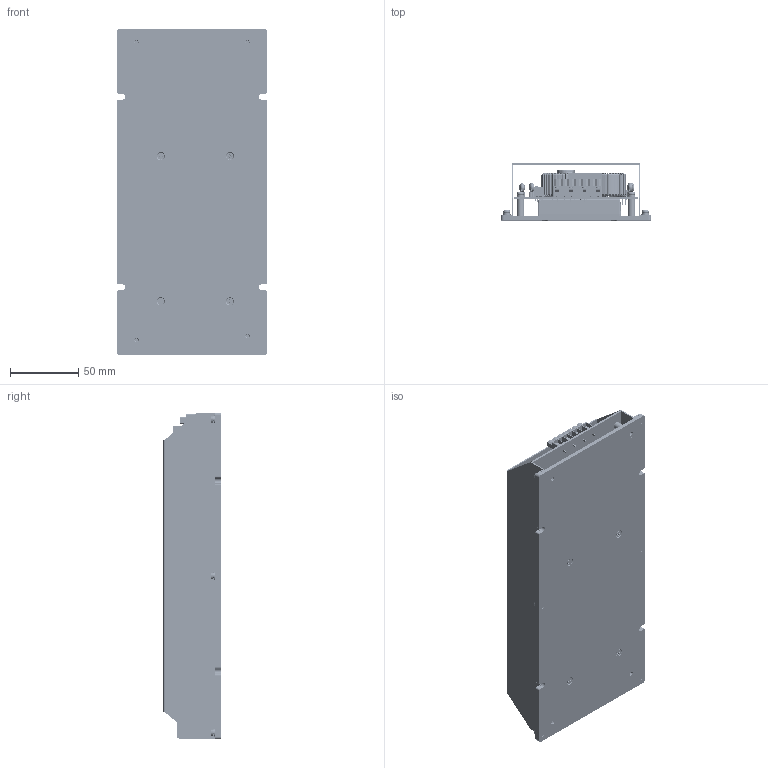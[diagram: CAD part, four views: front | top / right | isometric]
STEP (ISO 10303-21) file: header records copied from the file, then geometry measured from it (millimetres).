
FILE_DESCRIPTION (( 'STEP AP203' ), '1' );
FILE_NAME ('CFB750-300S CMFD 2024.11.14.STEP', '2024-11-14T05:45:45', ( '' ), ( '' ), 'SwSTEP 2.0', 'SolidWorks 2020', '' );
FILE_SCHEMA (( 'CONFIG_CONTROL_DESIGN' ));
Products named in the file (1): CFB750-300S CMFD 2024.11.14
Bounding box: 110 x 42 x 240 mm (x, y, z)
Volume: 222523.2 mm3; surface area: 235968.7 mm2
Topology: 15 solids, 19 shells, 4851 faces, 13580 edges, 8772 vertices
Faces by surface type: plane 2823, cylinder 991, bspline 441, torus 431, cone 165
Full cylindrical faces by diameter (mm): 0.6 x18, 0.8 x4, 0.936 x224, 1 x42, 1.2 x6, 1.4 x8, 1.5 x2, 2 x16, 2.4 x8, 2.5 x30, 2.8 x14, 2.846 x14, 2.9 x8, 3 x7, 3.2 x21, 3.25 x1, 3.5 x8, 3.8 x4, 3.9 x7, 4.5 x4, 5 x8, 5.06 x4, 5.2 x5, 5.246 x14, 5.3 x8, 5.8 x18, 6 x3, 6.3 x6, 10.2 x1, 12 x1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
Entity records: 209734 total; most frequent: CARTESIAN_POINT 99147, ORIENTED_EDGE 23898, DIRECTION 20211, EDGE_CURVE 11949, VERTEX_POINT 8165, VECTOR 6795, LINE 6795, AXIS2_PLACEMENT_3D 6708
